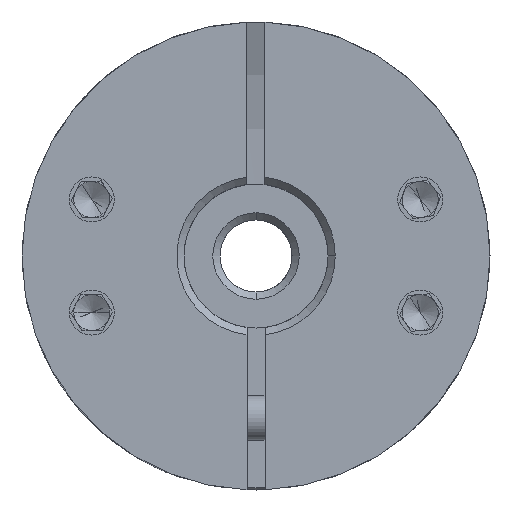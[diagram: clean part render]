
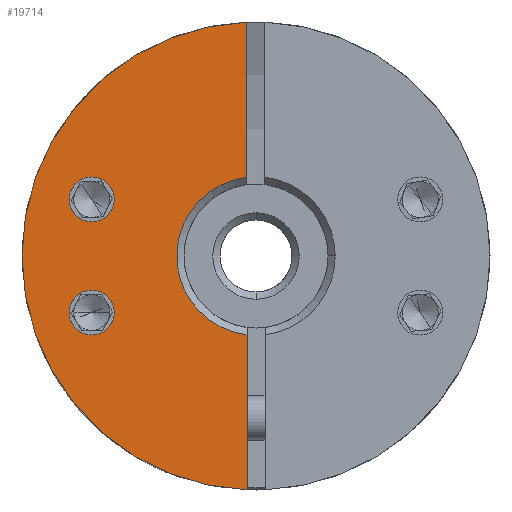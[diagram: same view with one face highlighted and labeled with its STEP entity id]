
A CAD part, front view. The second image highlights one B-rep face of the part: STEP entity #19714.
In plain terms, the highlighted planar face has unit normal (0, -1, 0).
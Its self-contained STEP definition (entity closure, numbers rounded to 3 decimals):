
#505 = VECTOR ( 'NONE', #8110, 1000. ) ;
#639 = CARTESIAN_POINT ( 'NONE',  ( -7.369, -26.289, -3.142 ) ) ;
#1194 = VERTEX_POINT ( 'NONE', #22045 ) ;
#1336 = AXIS2_PLACEMENT_3D ( 'NONE', #7950, #20538, #18524 ) ;
#1454 = EDGE_CURVE ( 'NONE', #13205, #21156, #18926, .T. ) ;
#1493 = CARTESIAN_POINT ( 'NONE',  ( 1.255, -26.289, -12.99 ) ) ;
#1499 = DIRECTION ( 'NONE',  ( 1., 0., 0. ) ) ;
#1650 = DIRECTION ( 'NONE',  ( 1., 0., 0. ) ) ;
#1928 = EDGE_CURVE ( 'NONE', #1194, #21156, #7527, .T. ) ;
#1951 = CIRCLE ( 'NONE', #22111, 1.25 ) ;
#1953 = CARTESIAN_POINT ( 'NONE',  ( -8.619, -26.289, -3.142 ) ) ;
#1964 = ORIENTED_EDGE ( 'NONE', *, *, #8339, .T. ) ;
#2446 = DIRECTION ( 'NONE',  ( 1., 0., 0. ) ) ;
#3679 = CIRCLE ( 'NONE', #9181, 13. ) ;
#4862 = AXIS2_PLACEMENT_3D ( 'NONE', #21112, #15843, #10316 ) ;
#4987 = LINE ( 'NONE', #13307, #505 ) ;
#5386 = FACE_OUTER_BOUND ( 'NONE', #12261, .T. ) ;
#5982 = DIRECTION ( 'NONE',  ( 1., 0., 0. ) ) ;
#6007 = EDGE_CURVE ( 'NONE', #14586, #22272, #20099, .T. ) ;
#6582 = EDGE_CURVE ( 'NONE', #13205, #13805, #3679, .T. ) ;
#6944 = DIRECTION ( 'NONE',  ( 1., 0., 0. ) ) ;
#7329 = CARTESIAN_POINT ( 'NONE',  ( 1.255, -26.289, 4.371 ) ) ;
#7377 = ORIENTED_EDGE ( 'NONE', *, *, #14289, .F. ) ;
#7527 = CIRCLE ( 'NONE', #1336, 4.4 ) ;
#7733 = DIRECTION ( 'NONE',  ( 1., 0., 0. ) ) ;
#7950 = CARTESIAN_POINT ( 'NONE',  ( 1.755, -26.289, 0. ) ) ;
#8110 = DIRECTION ( 'NONE',  ( 0., 0., -1. ) ) ;
#8200 = ORIENTED_EDGE ( 'NONE', *, *, #1454, .F. ) ;
#8339 = EDGE_CURVE ( 'NONE', #13805, #11576, #15008, .T. ) ;
#8637 = AXIS2_PLACEMENT_3D ( 'NONE', #20447, #9586, #5982 ) ;
#8653 = VECTOR ( 'NONE', #15907, 1000. ) ;
#9181 = AXIS2_PLACEMENT_3D ( 'NONE', #12378, #10517, #6944 ) ;
#9189 = VERTEX_POINT ( 'NONE', #19628 ) ;
#9227 = ORIENTED_EDGE ( 'NONE', *, *, #6582, .T. ) ;
#9571 = FACE_BOUND ( 'NONE', #11729, .T. ) ;
#9586 = DIRECTION ( 'NONE',  ( 0., -1., 0. ) ) ;
#10258 = CARTESIAN_POINT ( 'NONE',  ( -6.119, -26.289, 3.142 ) ) ;
#10316 = DIRECTION ( 'NONE',  ( 1., 0., 0. ) ) ;
#10484 = CIRCLE ( 'NONE', #17999, 1.25 ) ;
#10517 = DIRECTION ( 'NONE',  ( 0., -1., 0. ) ) ;
#10645 = EDGE_LOOP ( 'NONE', ( #11790, #18104 ) ) ;
#10935 = FACE_BOUND ( 'NONE', #10645, .T. ) ;
#11576 = VERTEX_POINT ( 'NONE', #1493 ) ;
#11729 = EDGE_LOOP ( 'NONE', ( #16658, #12015 ) ) ;
#11790 = ORIENTED_EDGE ( 'NONE', *, *, #6007, .T. ) ;
#12015 = ORIENTED_EDGE ( 'NONE', *, *, #22571, .T. ) ;
#12228 = CARTESIAN_POINT ( 'NONE',  ( 1.755, -26.289, 0. ) ) ;
#12261 = EDGE_LOOP ( 'NONE', ( #7377, #21345, #8200, #9227, #1964 ) ) ;
#12378 = CARTESIAN_POINT ( 'NONE',  ( 1.755, -26.289, 0. ) ) ;
#13205 = VERTEX_POINT ( 'NONE', #22551 ) ;
#13307 = CARTESIAN_POINT ( 'NONE',  ( 1.255, -26.289, 5. ) ) ;
#13561 = AXIS2_PLACEMENT_3D ( 'NONE', #12228, #22804, #1650 ) ;
#13805 = VERTEX_POINT ( 'NONE', #17026 ) ;
#13857 = CARTESIAN_POINT ( 'NONE',  ( -7.369, -26.289, 3.142 ) ) ;
#14033 = CARTESIAN_POINT ( 'NONE',  ( 1.255, -26.289, 5. ) ) ;
#14289 = EDGE_CURVE ( 'NONE', #1194, #11576, #4987, .T. ) ;
#14586 = VERTEX_POINT ( 'NONE', #1953 ) ;
#15008 = CIRCLE ( 'NONE', #8637, 13. ) ;
#15843 = DIRECTION ( 'NONE',  ( 0., 1., 0. ) ) ;
#15907 = DIRECTION ( 'NONE',  ( 0., 0., -1. ) ) ;
#16466 = DIRECTION ( 'NONE',  ( 0., 1., 0. ) ) ;
#16658 = ORIENTED_EDGE ( 'NONE', *, *, #17826, .T. ) ;
#17026 = CARTESIAN_POINT ( 'NONE',  ( -11.245, -26.289, 0. ) ) ;
#17814 = EDGE_CURVE ( 'NONE', #22272, #14586, #22670, .T. ) ;
#17826 = EDGE_CURVE ( 'NONE', #9189, #20128, #10484, .T. ) ;
#17999 = AXIS2_PLACEMENT_3D ( 'NONE', #21799, #20024, #7733 ) ;
#18104 = ORIENTED_EDGE ( 'NONE', *, *, #17814, .T. ) ;
#18524 = DIRECTION ( 'NONE',  ( 1., 0., 0. ) ) ;
#18926 = LINE ( 'NONE', #14033, #8653 ) ;
#19211 = DIRECTION ( 'NONE',  ( 0., 1., 0. ) ) ;
#19628 = CARTESIAN_POINT ( 'NONE',  ( -8.619, -26.289, 3.142 ) ) ;
#19714 = ADVANCED_FACE ( 'NONE', ( #5386, #9571, #10935 ), #21091, .T. ) ;
#19948 = CARTESIAN_POINT ( 'NONE',  ( -6.119, -26.289, -3.142 ) ) ;
#20024 = DIRECTION ( 'NONE',  ( 0., 1., 0. ) ) ;
#20099 = CIRCLE ( 'NONE', #4862, 1.25 ) ;
#20128 = VERTEX_POINT ( 'NONE', #10258 ) ;
#20447 = CARTESIAN_POINT ( 'NONE',  ( 1.755, -26.289, 0. ) ) ;
#20538 = DIRECTION ( 'NONE',  ( 0., 1., 0. ) ) ;
#21091 = PLANE ( 'NONE',  #13561 ) ;
#21112 = CARTESIAN_POINT ( 'NONE',  ( -7.369, -26.289, -3.142 ) ) ;
#21156 = VERTEX_POINT ( 'NONE', #7329 ) ;
#21345 = ORIENTED_EDGE ( 'NONE', *, *, #1928, .T. ) ;
#21799 = CARTESIAN_POINT ( 'NONE',  ( -7.369, -26.289, 3.142 ) ) ;
#22045 = CARTESIAN_POINT ( 'NONE',  ( 1.255, -26.289, -4.371 ) ) ;
#22111 = AXIS2_PLACEMENT_3D ( 'NONE', #13857, #19211, #1499 ) ;
#22272 = VERTEX_POINT ( 'NONE', #19948 ) ;
#22463 = AXIS2_PLACEMENT_3D ( 'NONE', #639, #16466, #2446 ) ;
#22551 = CARTESIAN_POINT ( 'NONE',  ( 1.255, -26.289, 12.99 ) ) ;
#22571 = EDGE_CURVE ( 'NONE', #20128, #9189, #1951, .T. ) ;
#22670 = CIRCLE ( 'NONE', #22463, 1.25 ) ;
#22804 = DIRECTION ( 'NONE',  ( 0., -1., 0. ) ) ;
